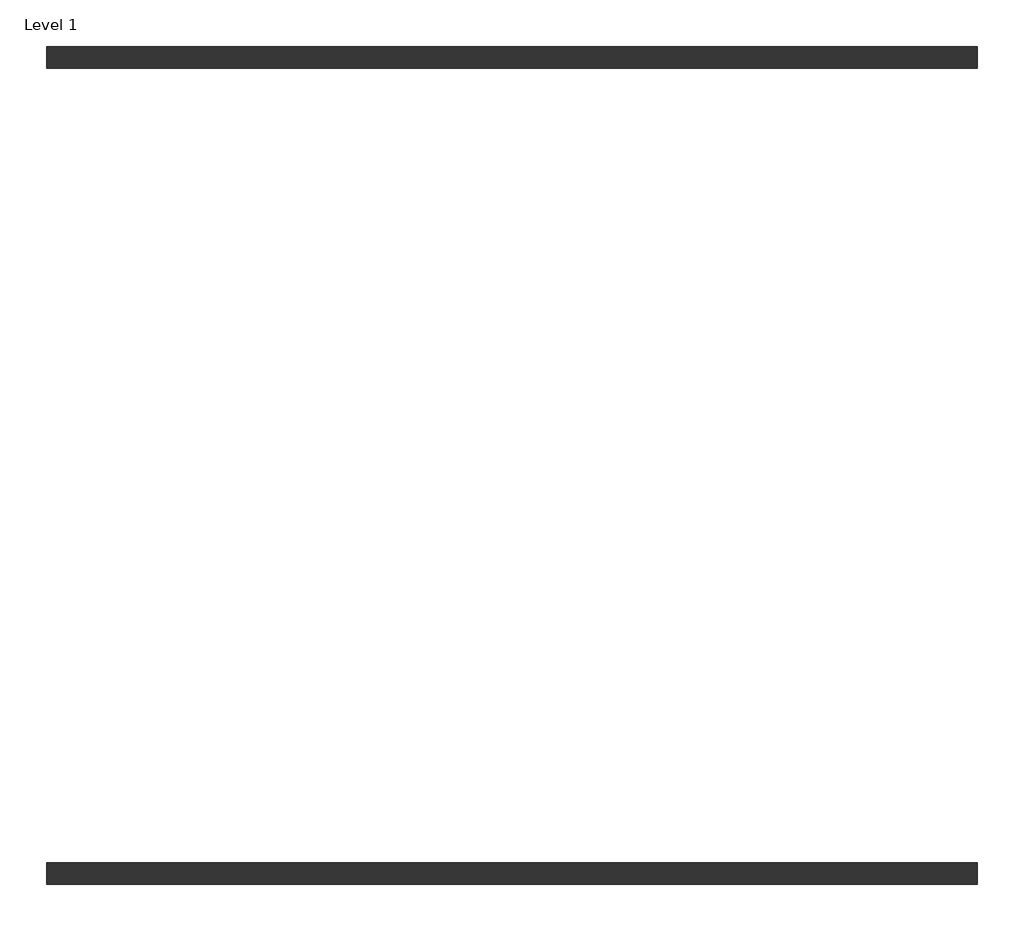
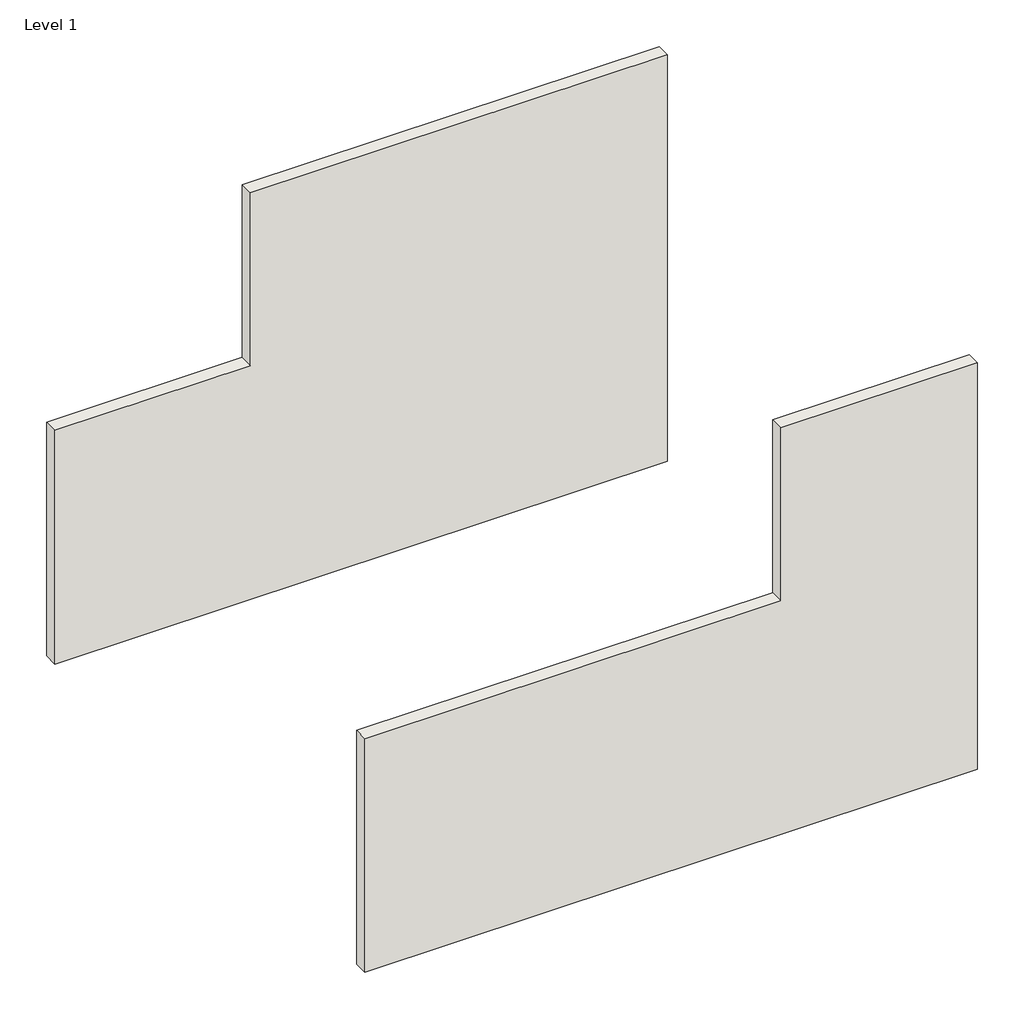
# One storey: 2 walls.
"""IFC4 building model written with IfcOpenShell, lengths in millimetres."""

from ifc_helpers import new_model, si_unit, frame, origin, place, context, project, spatial, polyline, outline, extrude, element, save

model = new_model("IFC4")

# Units and contexts
model_context = context("Model", 3, world=origin())
ifc_project = project(units=[si_unit("LENGTHUNIT", "METRE", prefix="MILLI")], contexts=[model_context])

# Site, building, storey
site = spatial("IfcSite", under=ifc_project)
building = spatial("IfcBuilding", under=site)
storey = spatial("IfcBuildingStorey", under=building, Name="Level 1", Elevation=0.0)

# Walls
placement = place(None, origin())
element("IfcWall", 1, ObjectType="Wall 1", at=placement, inside=storey, context=model_context, shape_type="SweptSolid", body=[
    extrude(outline(polyline([(0.0, -840.1217296), (0.0, 7846.6782704), (6096.0, 7846.6782704), (6096.0, 5059.4935315), (3505.2, 5059.4935315), (3505.2, -840.1217296), (0.0, -840.1217296)])), frame((0.0, 5416.5129582, 0.0), z_axis=(0.0, 1.0, 0.0), x_axis=(0.0, 0.0, 1.0)), (0.0, 0.0, 1.0), 203.2),
])
element("IfcWall", 2, ObjectType="Wall 1", at=placement, inside=storey, context=model_context, shape_type="SweptSolid", body=[
    extrude(outline(polyline([(0.0, -840.1217296), (0.0, 7846.6782704), (6096.0, 7846.6782704), (6096.0, 1935.0795927), (3505.2, 1935.0795927), (3505.2, -840.1217296), (0.0, -840.1217296)])), frame((0.0, 13036.5129582, 0.0), z_axis=(0.0, 1.0, 0.0), x_axis=(0.0, 0.0, 1.0)), (0.0, 0.0, 1.0), 203.2),
])

save(model, "model.ifc")
